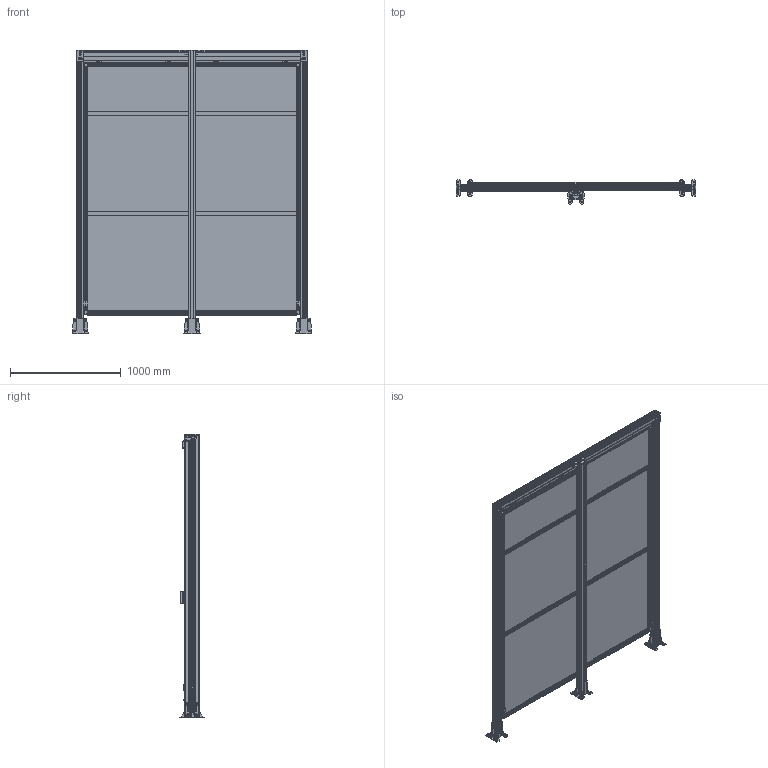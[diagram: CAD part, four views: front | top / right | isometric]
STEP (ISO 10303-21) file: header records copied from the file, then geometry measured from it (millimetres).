
FILE_DESCRIPTION(/* description */ (''),/* implementation_level */ '2;1');
FILE_NAME(/* name */ 'Z:\Marketing\fastline\Porta scorrevole doppia H=2500.stp',/* time_stamp */ '2021-10-15T15:19:07+02:00',/* author */ ('mpistoia'),/* organization */ (''),/* preprocessor_version */ 'ST-DEVELOPER v17.2',/* originating_system */ 'Autodesk Inventor 2019',/* authorisation */ '');
FILE_SCHEMA (('AUTOMOTIVE_DESIGN { 1 0 10303 214 3 1 1 }'));
Products named in the file (1): Porta scorrevole doppia H=2500
Bounding box: 2165.13 x 217.45 x 2563 mm (x, y, z)
Volume: 26064069.6 mm3; surface area: 20889392.9 mm2
Topology: 9 solids, 39 shells, 7099 faces, 18731 edges, 11920 vertices
Faces by surface type: plane 4222, cylinder 2369, sphere 228, cone 219, bspline 40, torus 21
Full cylindrical faces by diameter (mm): 3.2 x8, 3.25 x18, 4 x36, 4.5 x29, 5 x4, 5.5 x22, 6 x10, 6.1 x8, 6.2 x8, 6.35 x8, 6.5 x4, 6.647 x12, 7 x4, 7.5 x20, 8 x22, 8.5 x10, 9 x8, 9.5 x14, 11 x18, 11.63 x16, 13 x16, 13.2 x24, 24.5 x8, 27 x8
Entity records: 223232 total; most frequent: CARTESIAN_POINT 43868, DIRECTION 38060, ORIENTED_EDGE 37374, EDGE_CURVE 18687, AXIS2_PLACEMENT_3D 12916, LINE 12228, VECTOR 12228, VERTEX_POINT 11920
